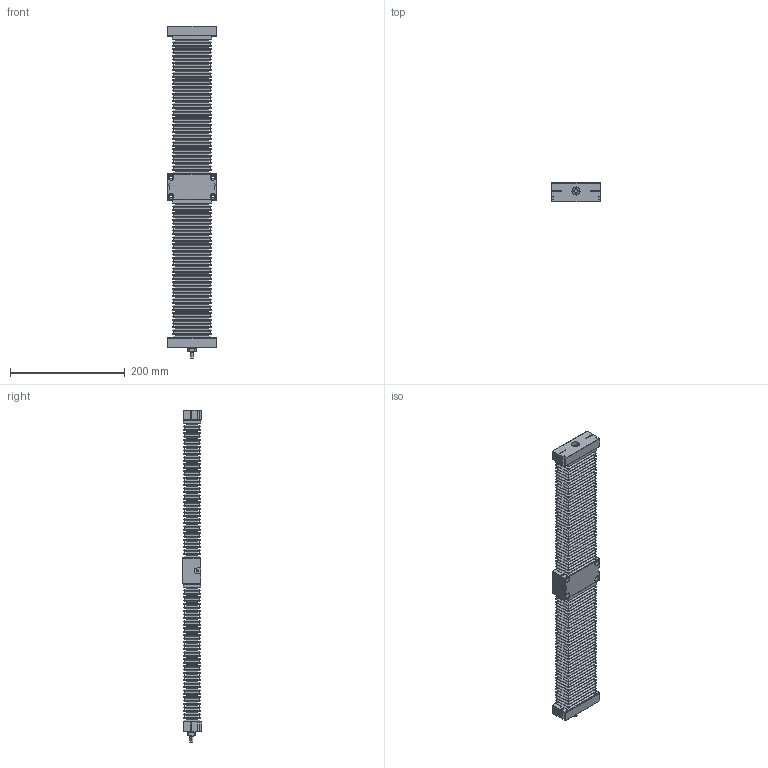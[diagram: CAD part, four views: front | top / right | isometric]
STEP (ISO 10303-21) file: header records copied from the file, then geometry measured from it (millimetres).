
FILE_DESCRIPTION (( 'STEP AP214' ), '1' );
FILE_NAME ('TKC0802B-300H0C-Ä£×é.step', '2025-08-25T08:36:23', ( '' ), ( '' ), 'SwSTEP 2.0', 'SolidWorks 2024', '' );
FILE_SCHEMA (( 'AUTOMOTIVE_DESIGN' ));
Length unit declared in the file: millimetre
Products named in the file (4): TKC08-300-03; TKC0802B-300H0C-模组; TKC08-02; TKC08-300-01
Assembly tree (4 placements, depth 2):
  TKC0802B-300H0C-模组
    TKC08-02
    TKC08-300-01
    TKC08-300-03  x2
Bounding box: 85 x 34 x 578 mm (x, y, z)
Volume: 853584.2 mm3; surface area: 337800.2 mm2
Topology: 10 solids, 16 shells, 1714 faces, 3826 edges, 2186 vertices
Faces by surface type: plane 1264, cylinder 369, cone 42, torus 28, bspline 11
Entity records: 44369 total; most frequent: CARTESIAN_POINT 16981, ORIENTED_EDGE 5580, DIRECTION 5396, EDGE_CURVE 2790, LINE 1932, VECTOR 1932, AXIS2_PLACEMENT_3D 1732, VERTEX_POINT 1670
